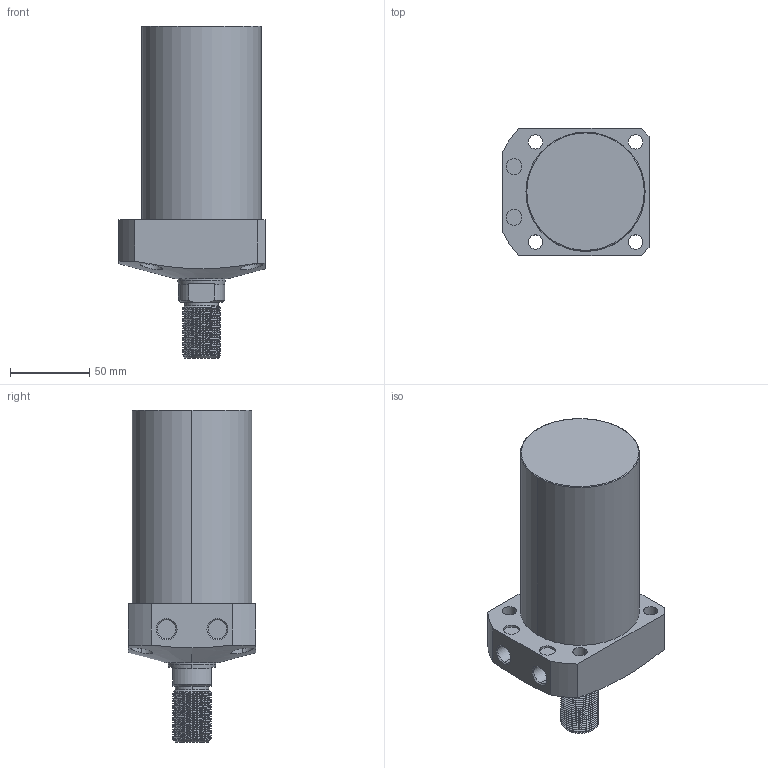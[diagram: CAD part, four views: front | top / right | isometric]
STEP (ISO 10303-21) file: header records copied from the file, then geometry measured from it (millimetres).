
FILE_DESCRIPTION (( 'STEP AP203' ), '1' );
FILE_NAME ('CLL-075CT-085.STEP', '2020-01-08T12:00:58', ( '' ), ( '' ), 'SwSTEP 2.0', 'SolidWorks 2015', '' );
FILE_SCHEMA (( 'CONFIG_CONTROL_DESIGN' ));
Length unit declared in the file: millimetre
Products named in the file (1): CLL-075CT-085
Bounding box: 92 x 80 x 209 mm (x, y, z)
Volume: 780174.2 mm3; surface area: 63615.8 mm2
Topology: 1 solids, 1 shells, 121 faces, 310 edges, 202 vertices
Faces by surface type: cylinder 77, plane 23, cone 17, torus 2, bspline 2
Entity records: 6547 total; most frequent: CARTESIAN_POINT 3757, ORIENTED_EDGE 620, DIRECTION 517, EDGE_CURVE 310, AXIS2_PLACEMENT_3D 204, VERTEX_POINT 202, EDGE_LOOP 140, FACE_OUTER_BOUND 121
